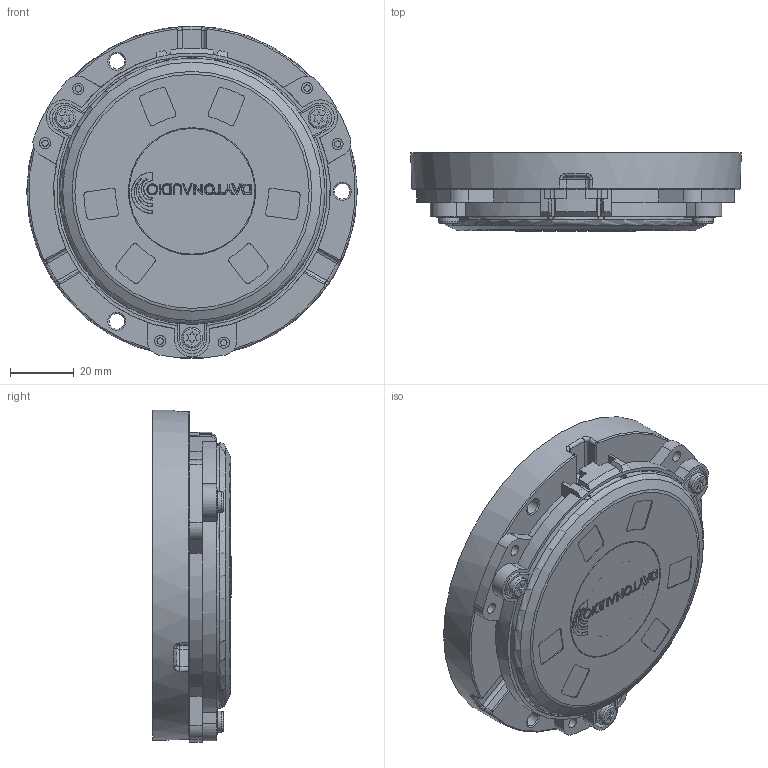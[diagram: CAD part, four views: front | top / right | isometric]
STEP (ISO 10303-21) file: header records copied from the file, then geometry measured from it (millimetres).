
FILE_DESCRIPTION(/* description */ (''),/* implementation_level */ '2;1');
FILE_NAME(/* name */ 'tt25-8 and -16.step',/* time_stamp */ '2026-02-27T16:12:30-05:00',/* author */ (''),/* organization */ (''),/* preprocessor_version */ 'ST-DEVELOPER v20.1',/* originating_system */ 'Autodesk Translation Framework v14.24.0.0',/* authorisation */ '');
FILE_SCHEMA (('AUTOMOTIVE_DESIGN { 1 0 10303 214 3 1 1 }'));
Length unit declared in the file: millimetre
Products named in the file (10): TT25-01_ASM; YD87-01_ASM_5_ASM; SUL-ZHAO-1_4; PARTSLOGO-01_1; PRT0005_1_ASM; PRT0005_1_1; PRT0005_1_2; PRT0005_1_3; AL-ZHAO_3; SMRK-1 Mounting Ring
Assembly tree (9 placements, depth 4):
  TT25-01_ASM
    YD87-01_ASM_5_ASM
      SUL-ZHAO-1_4
      PARTSLOGO-01_1
      PRT0005_1_ASM
        PRT0005_1_1
        PRT0005_1_2
        PRT0005_1_3
      AL-ZHAO_3
    SMRK-1 Mounting Ring
Bounding box: 103.9 x 24.6 x 104.33 mm (x, y, z)
Volume: 108217.7 mm3; surface area: 64000.5 mm2
Topology: 7 solids, 7 shells, 751 faces, 1882 edges, 1194 vertices
Faces by surface type: plane 314, cylinder 288, bspline 84, torus 36, cone 17, sphere 12
Full cylindrical faces by diameter (mm): 1 x4, 2 x8, 3 x8, 3.5 x8, 3.8 x3, 4.9 x3, 6.2 x3, 6.5 x3, 25.86 x1, 30 x1, 39.5 x1, 40 x2, 58 x1, 64 x1, 67 x1, 78 x1
Entity records: 26766 total; most frequent: CARTESIAN_POINT 8517, ORIENTED_EDGE 3754, DIRECTION 3746, EDGE_CURVE 1877, AXIS2_PLACEMENT_3D 1395, VERTEX_POINT 1192, LINE 956, VECTOR 956
